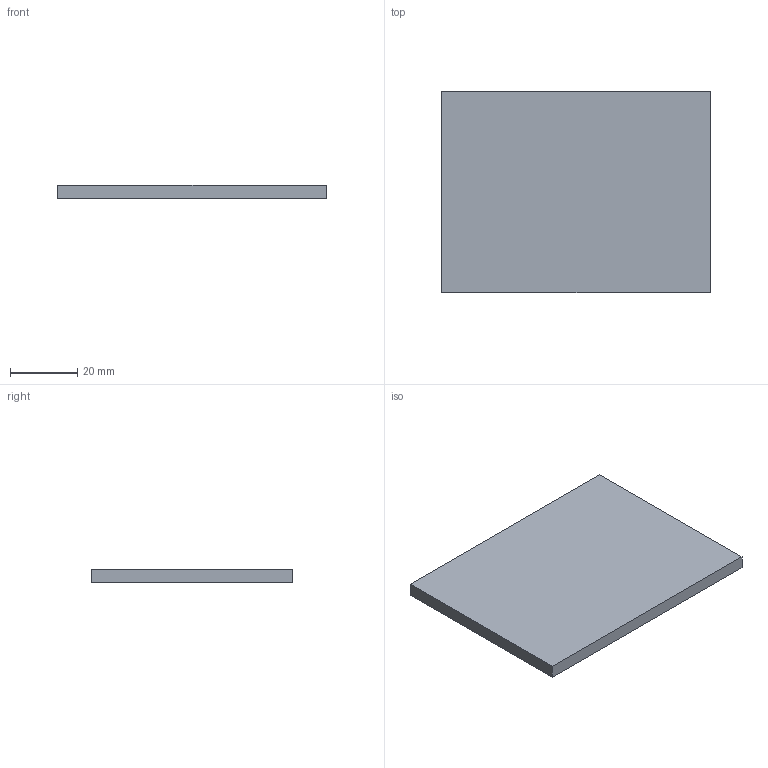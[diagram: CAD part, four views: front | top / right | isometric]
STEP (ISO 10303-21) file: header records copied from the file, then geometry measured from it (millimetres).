
FILE_DESCRIPTION(('Open CASCADE Model'),'2;1');
FILE_NAME('Open CASCADE Shape Model','2026-10-10T15:34:58',('Author'),( 'Open CASCADE'),'Open CASCADE STEP processor 7.9','Open CASCADE 7.9' ,'Unknown');
FILE_SCHEMA(('AUTOMOTIVE_DESIGN { 1 0 10303 214 1 1 1 1 }'));
Length unit declared in the file: millimetre
Products named in the file (1): Open CASCADE STEP translator 7.9 22
Bounding box: 80 x 60 x 4 mm (x, y, z)
Volume: 19200 mm3; surface area: 10720 mm2
Topology: 1 solids, 1 shells, 6 faces, 12 edges, 8 vertices
Faces by surface type: plane 6
Entity records: 322 total; most frequent: CARTESIAN_POINT 51, DIRECTION 50, LINE 36, VECTOR 36, ORIENTED_EDGE 24, PCURVE 24, DEFINITIONAL_REPRESENTATION 24, EDGE_CURVE 12
